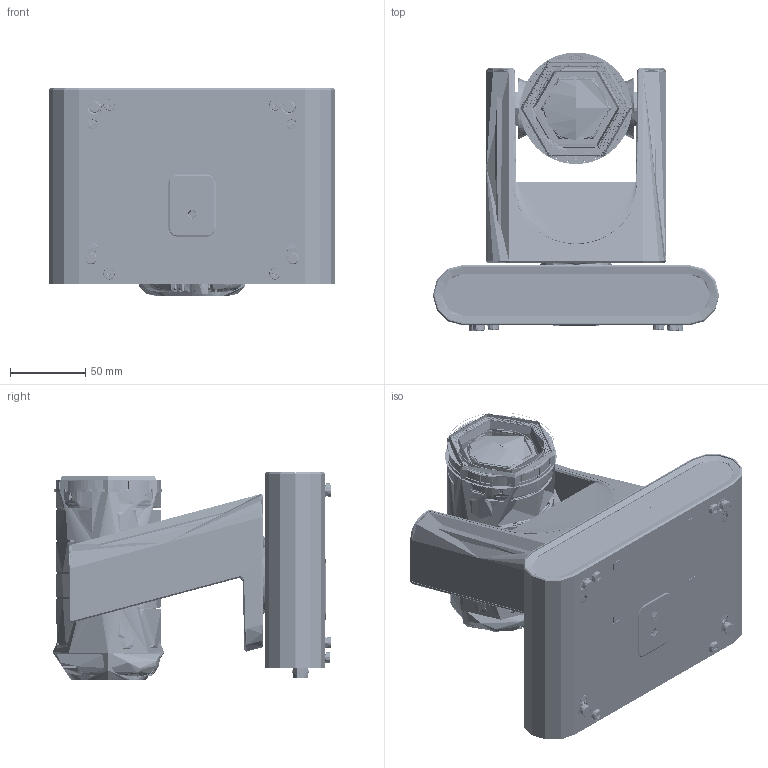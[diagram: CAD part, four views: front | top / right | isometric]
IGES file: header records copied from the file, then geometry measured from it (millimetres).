
Start section: SolidWorks IGES file using analytic representation for surfaces
Global section: file name: Y:\非機密資料暫存區\casper\00-Assy-body-0319\00-Assy-Body-0319.IGS; native system: SolidWorks 2020; preprocessor: SolidWorks 2020; author: Casper.Liu; date: 260319.165704; units: millimetre
Bounding box: 190 x 184.9 x 137.6 mm (x, y, z)
Surface area: 486389.1 mm2 (no closed solid volume)
Topology: 0 solids, 0 shells, 9135 faces, 86462 edges, 86357 vertices
Faces by surface type: bspline 6184, revolution 2951
